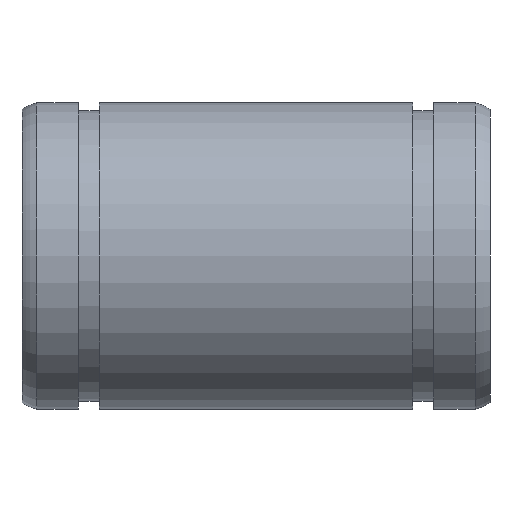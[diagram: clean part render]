
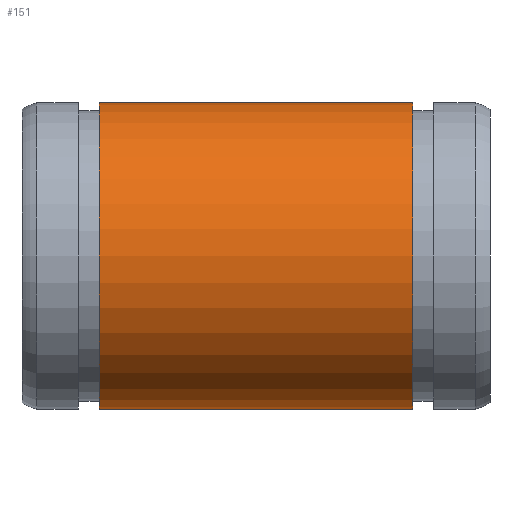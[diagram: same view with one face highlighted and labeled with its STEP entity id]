
A CAD part, front view. The second image highlights one B-rep face of the part: STEP entity #151.
In plain terms, the highlighted cylindrical face has radius 9.5 mm (diameter 19 mm), a full revolution.
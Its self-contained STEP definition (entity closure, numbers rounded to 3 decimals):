
#117=CARTESIAN_POINT('',(24.2,0.0,9.5));
#118=VERTEX_POINT('',#117);
#119=CARTESIAN_POINT('',(24.2,0.0,0.));
#120=DIRECTION('',(-1.0,0.0,0.0));
#121=DIRECTION('',(0.0,0.0,1.0));
#122=AXIS2_PLACEMENT_3D('',#119,#120,#121);
#123=CIRCLE('',#122,9.5);
#124=EDGE_CURVE('',#118,#118,#123,.T.);
#132=CARTESIAN_POINT('',(14.5,0.0,0.));
#133=DIRECTION('',(-1.0,0.0,0.0));
#134=DIRECTION('',(0.0,0.0,1.0));
#135=AXIS2_PLACEMENT_3D('',#132,#133,#134);
#136=CYLINDRICAL_SURFACE('',#135,9.5);
#137=CARTESIAN_POINT('',(4.8,0.0,9.5));
#138=VERTEX_POINT('',#137);
#139=CARTESIAN_POINT('',(4.8,0.0,0.));
#140=DIRECTION('',(-1.0,0.0,0.0));
#141=DIRECTION('',(0.0,0.0,1.0));
#142=AXIS2_PLACEMENT_3D('',#139,#140,#141);
#143=CIRCLE('',#142,9.5);
#144=EDGE_CURVE('',#138,#138,#143,.T.);
#145=ORIENTED_EDGE('',*,*,#144,.F.);
#146=EDGE_LOOP('',(#145));
#147=FACE_OUTER_BOUND('',#146,.T.);
#148=ORIENTED_EDGE('',*,*,#124,.T.);
#149=EDGE_LOOP('',(#148));
#150=FACE_BOUND('',#149,.T.);
#151=ADVANCED_FACE('',(#147,#150),#136,.T.);
